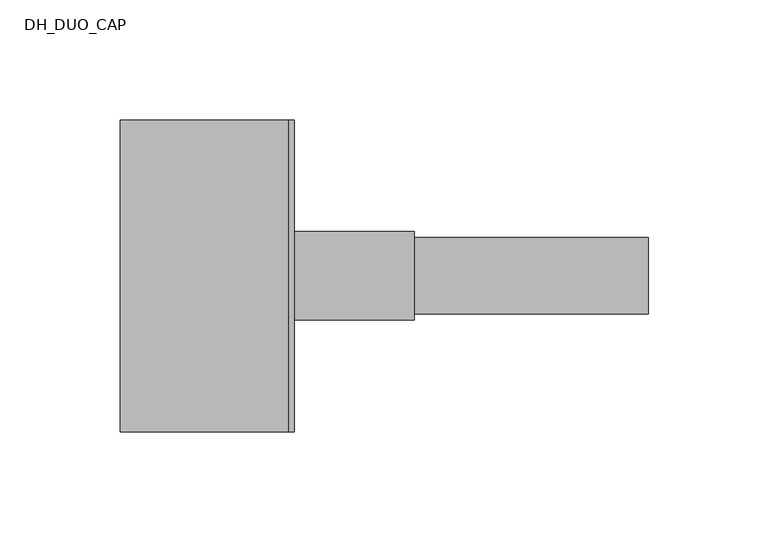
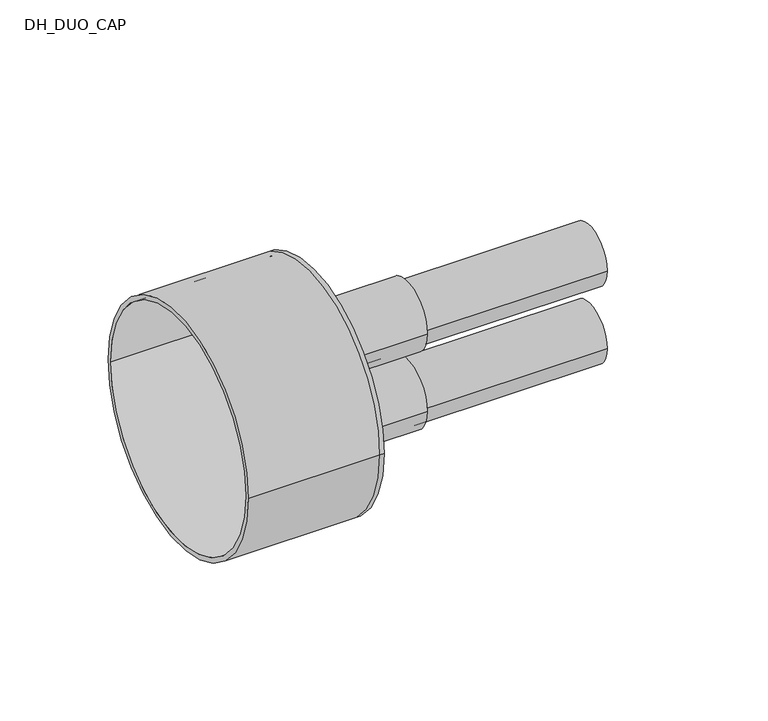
"""IFC4 building model written with IfcOpenShell, lengths in millimetres: pipe fitting geometry, DH_DUO_CAP : INSULPEX DUO + 11 Heating - Rubber Cap."""

import ifcopenshell
import ifcopenshell.guid

model = None  # the IFC model being written
_history = None  # IfcOwnerHistory: only IFC2X3 demands one
_inside = {}  # id of a spatial element -> (the spatial element, [elements in it])
_under = {}  # id of a project, library or spatial element -> (it, [spatial elements below it])
_declared = {}  # id of a project -> (the project, [libraries it declares])
_typed = {}  # id of a type object -> (the type object, [elements of that type])
_made_of = {}  # id of a material, layer set ... -> (it, [elements and type objects made of it])


def new_model(schema):
    """Start an empty IFC model of exactly this schema.

    Asked for "IFC4X3", IfcOpenShell would pick the latest addendum, in which some entities
    have other attributes; the version numbers below select the first issue.
    IFC2X3 requires an IfcOwnerHistory on every rooted entity: one is made here for all.
    """
    global model, _history
    if schema == "IFC4X3":
        model = ifcopenshell.file(schema_version=(4, 3, 0, 0))
    else:
        model = ifcopenshell.file(schema=schema)
    _inside.clear()
    _under.clear()
    _declared.clear()
    _typed.clear()
    _made_of.clear()
    _history = None
    if model.schema == "IFC2X3":
        org = make("IfcOrganization", Name="unknown")
        user = make(
            "IfcPersonAndOrganization",
            ThePerson=make("IfcPerson", FamilyName="unknown"),
            TheOrganization=org,
        )
        app = make(
            "IfcApplication",
            ApplicationDeveloper=org,
            Version="unknown",
            ApplicationFullName="unknown",
            ApplicationIdentifier="unknown",
        )
        _history = make(
            "IfcOwnerHistory",
            OwningUser=user,
            OwningApplication=app,
            ChangeAction="ADDED",
            CreationDate=0,
        )
    return model


def make(cls, **values):
    """One entity of the class cls with the attributes given. An attribute that is None is left unset."""
    return model.create_entity(
        cls, **{name: value for name, value in values.items() if value is not None}
    )


def rooted(cls, **values):
    """An entity with a GlobalId (a new one), such as an element, a storey or a relation."""
    return make(cls, GlobalId=ifcopenshell.guid.new(), OwnerHistory=_history, **values)


def si_unit(unit_type, name, prefix=None):
    """IfcSIUnit, for example si_unit("LENGTHUNIT", "METRE", prefix="MILLI")."""
    return make("IfcSIUnit", UnitType=unit_type, Prefix=prefix, Name=name)


def assignment(units):
    """IfcUnitAssignment: the units of a project."""
    return None if units is None else make("IfcUnitAssignment", Units=units)


def point(xyz):
    """IfcCartesianPoint."""
    return None if xyz is None else make("IfcCartesianPoint", Coordinates=xyz)


def direction(xyz):
    """IfcDirection."""
    return None if xyz is None else make("IfcDirection", DirectionRatios=xyz)


def frame(location, z_axis=None, x_axis=None):
    """IfcAxis2Placement3D, a coordinate frame: its origin and axes. An axis left out is left unset."""
    return make(
        "IfcAxis2Placement3D",
        Location=point(location),
        Axis=direction(z_axis),
        RefDirection=direction(x_axis),
    )


def frame_2d(location, x_axis=None):
    """IfcAxis2Placement2D, a coordinate frame in the plane: its origin and x axis."""
    return make(
        "IfcAxis2Placement2D", Location=point(location), RefDirection=direction(x_axis)
    )


def origin():
    """The frame at (0, 0, 0) with its axes left unset."""
    return frame((0.0, 0.0, 0.0))


def place(relative_to, where):
    """IfcLocalPlacement: puts the frame where relative to a parent placement (None: the world)."""
    return make(
        "IfcLocalPlacement", PlacementRelTo=relative_to, RelativePlacement=where
    )


def context(
    kind, dimensions, precision=None, world=None, true_north=None, identifier=None
):
    """IfcGeometricRepresentationContext, for example the 3D "Model" context."""
    return make(
        "IfcGeometricRepresentationContext",
        ContextIdentifier=identifier,
        ContextType=kind,
        CoordinateSpaceDimension=dimensions,
        Precision=precision,
        WorldCoordinateSystem=world,
        TrueNorth=true_north,
    )


def project(units=None, contexts=None):
    """IfcProject with its units and contexts."""
    return rooted(
        "IfcProject",
        Name="project",
        RepresentationContexts=contexts,
        UnitsInContext=assignment(units),
    )


def spatial(cls, under=None, at=None, **own):
    """A site, building, storey or space (cls), placed at a placement, below another one or the project."""
    s = rooted(cls, ObjectPlacement=at, **own)
    if under is not None:
        _under.setdefault(under.id(), (under, []))[1].append(s)
    return s


def polyline(points):
    """IfcPolyline through the points."""
    return make("IfcPolyline", Points=[point(p) for p in points])


def circle_curve(where, radius):
    """IfcCircle in the frame where."""
    return make("IfcCircle", Position=where, Radius=radius)


def trimmed(basis, trim1, trim2, sense, master):
    """IfcTrimmedCurve: the piece of a basis curve between two trims."""
    return make(
        "IfcTrimmedCurve",
        BasisCurve=basis,
        Trim1=trim1,
        Trim2=trim2,
        SenseAgreement=sense,
        MasterRepresentation=master,
    )


def segment(curve, same_sense, transition):
    """IfcCompositeCurveSegment."""
    return make(
        "IfcCompositeCurveSegment",
        Transition=transition,
        SameSense=same_sense,
        ParentCurve=curve,
    )


def composite_curve(segments, self_intersect=None):
    """IfcCompositeCurve: segments joined end to end."""
    return make("IfcCompositeCurve", Segments=segments, SelfIntersect=self_intersect)


def outline(outer, holes=None, kind="AREA"):
    """IfcArbitraryClosedProfileDef: a profile drawn as a closed curve; with holes, ...WithVoids."""
    if holes is None:
        return make("IfcArbitraryClosedProfileDef", ProfileType=kind, OuterCurve=outer)
    return make(
        "IfcArbitraryProfileDefWithVoids",
        ProfileType=kind,
        OuterCurve=outer,
        InnerCurves=holes,
    )


def extrude(swept, where, along, depth):
    """IfcExtrudedAreaSolid: the profile swept, set in the frame where, extruded along a direction by depth."""
    return make(
        "IfcExtrudedAreaSolid",
        SweptArea=swept,
        Position=where,
        ExtrudedDirection=direction(along),
        Depth=depth,
    )


def shape(context_of_items, identifier, shape_type, items):
    """IfcShapeRepresentation: the items that make up one representation, for example the "Body"."""
    return make(
        "IfcShapeRepresentation",
        ContextOfItems=context_of_items,
        RepresentationIdentifier=identifier,
        RepresentationType=shape_type,
        Items=items,
    )


def source(mapping_origin, context_of_items, identifier, shape_type, items):
    """IfcRepresentationMap: a shape defined once, which mapped items show again and again."""
    return make(
        "IfcRepresentationMap",
        MappingOrigin=mapping_origin,
        MappedRepresentation=shape(context_of_items, identifier, shape_type, items),
    )


def transform(
    local_origin,
    x_axis=None,
    y_axis=None,
    z_axis=None,
    scale=None,
    scale2=None,
    scale3=None,
    uniform=True,
):
    """IfcCartesianTransformationOperator3D, or its non-uniform kind. x_axis, y_axis, z_axis: its Axis1, 2, 3."""
    if uniform:
        return make(
            "IfcCartesianTransformationOperator3D",
            Axis1=direction(x_axis),
            Axis2=direction(y_axis),
            LocalOrigin=point(local_origin),
            Scale=scale,
            Axis3=direction(z_axis),
        )
    return make(
        "IfcCartesianTransformationOperator3DnonUniform",
        Axis1=direction(x_axis),
        Axis2=direction(y_axis),
        LocalOrigin=point(local_origin),
        Scale=scale,
        Axis3=direction(z_axis),
        Scale2=scale2,
        Scale3=scale3,
    )


def mapped(mapping_source, mapping_target):
    """IfcMappedItem: shows the shape of a source again, moved by a transform."""
    return make(
        "IfcMappedItem", MappingSource=mapping_source, MappingTarget=mapping_target
    )


def made_of(thing, what):
    """Note that an element or type object is made of a material, layer set ...; save() writes the relation."""
    if what is not None:
        _made_of.setdefault(what.id(), (what, []))[1].append(thing)
    return thing


def element(
    cls,
    number,
    at=None,
    inside=None,
    cuts=None,
    type_object=None,
    material=None,
    context=None,
    identifier="Body",
    shape_type=None,
    held_by="IfcProductDefinitionShape",
    body=None,
    shapes=None,
    **own,
):
    """One element of the class cls, such as IfcWall. Its Tag is "e" and its number.

    at: its placement. inside: the storey or other place that contains it. cuts: it is an
    opening in that element (IfcRelVoidsElement). A single representation is given by context,
    identifier, shape_type and body (its items); several are given by shapes. held_by: the class
    of the entity that holds the representations. save() writes the other relations.
    """
    e = rooted(cls, Tag="e%d" % number, ObjectPlacement=at, **own)
    if body is not None:
        shapes = [shape(context, identifier, shape_type, body)]
    if shapes is not None:
        e.Representation = make(held_by, Representations=shapes)
    if inside is not None:
        _inside.setdefault(inside.id(), (inside, []))[1].append(e)
    if cuts is not None:
        rooted(
            "IfcRelVoidsElement", RelatingBuildingElement=cuts, RelatedOpeningElement=e
        )
    if type_object is not None:
        _typed.setdefault(type_object.id(), (type_object, []))[1].append(e)
    return made_of(e, material)


def aggregate(whole, parts):
    """IfcRelAggregates: a whole, such as a stair, and the parts it consists of."""
    return rooted("IfcRelAggregates", RelatingObject=whole, RelatedObjects=parts)


def save(model, path):
    """Write the relations noted so far, then the file.

    IfcRelAggregates (storeys below a building ...), IfcRelContainedInSpatialStructure (elements
    in a storey), IfcRelDefinesByType, IfcRelAssociatesMaterial and IfcRelDeclares: one each for
    every whole, place, type object, material and project.
    """
    for whole, parts in _under.values():
        aggregate(whole, parts)
    for where, things in _inside.values():
        rooted(
            "IfcRelContainedInSpatialStructure",
            RelatedElements=things,
            RelatingStructure=where,
        )
    for kind, things in _typed.values():
        rooted("IfcRelDefinesByType", RelatedObjects=things, RelatingType=kind)
    for what, things in _made_of.values():
        rooted("IfcRelAssociatesMaterial", RelatedObjects=things, RelatingMaterial=what)
    for by, libraries in _declared.values():
        rooted("IfcRelDeclares", RelatingContext=by, RelatedDefinitions=libraries)
    model.write(path)


def plane_surface(at):
    """IfcPlane: the flat surface through the origin of the frame at, square to its z axis."""
    return make("IfcPlane", Position=at)


def cylinder_surface(at, radius):
    """IfcCylindricalSurface: all points at the distance radius from the z axis of the frame at."""
    return make("IfcCylindricalSurface", Position=at, Radius=radius)


def revolved_surface(curve, axis_point, axis_direction):
    """IfcSurfaceOfRevolution: the curve turned about the line through axis_point along axis_direction."""
    return make(
        "IfcSurfaceOfRevolution",
        SweptCurve=make("IfcArbitraryOpenProfileDef", ProfileType="CURVE", Curve=curve),
        AxisPosition=make("IfcAxis1Placement", Location=point(axis_point), Axis=direction(axis_direction)),
    )


def advanced_brep(points, edges, surfaces, faces):
    """IfcAdvancedBrep: a solid bounded by faces that lie on surfaces and meet in shared edges.

    An edge is (start, end): straight between two places in points (the first is 0);
    or (start, end, curve); or (start, end, curve, False) where it runs against its curve.
    A face is (place in surfaces, loops), or (place, loops, False) where it looks against
    its surface's normal. A loop lists edges by number (the first is 1), with a minus sign
    where the edge is run from its end to its start. The first loop is the outer one.
    """
    corners = [point(p) for p in points]
    vertices = [make("IfcVertexPoint", VertexGeometry=c) for c in corners]
    made = []
    for start, end, *more in edges:
        made.append(
            make(
                "IfcEdgeCurve",
                EdgeStart=vertices[start],
                EdgeEnd=vertices[end],
                EdgeGeometry=more[0] if more else make("IfcPolyline", Points=[corners[start], corners[end]]),
                SameSense=more[1] if len(more) > 1 else True,
            )
        )
    hull = []
    for where, loops, *sense in faces:
        bounds = []
        for j, loop in enumerate(loops):
            ring = [make("IfcOrientedEdge", EdgeElement=made[abs(k) - 1], Orientation=k > 0) for k in loop]
            bounds.append(
                make(
                    "IfcFaceOuterBound" if j == 0 else "IfcFaceBound",
                    Bound=make("IfcEdgeLoop", EdgeList=ring),
                    Orientation=True,
                )
            )
        hull.append(make("IfcAdvancedFace", Bounds=bounds, FaceSurface=surfaces[where], SameSense=sense[0] if sense else True))
    return make("IfcAdvancedBrep", Outer=make("IfcClosedShell", CfsFaces=hull))


def dh_duo_cap_c0886c2c(model_context):
    return source(origin(), model_context, "Body", "SolidModel", [
        extrude(outline(composite_curve([segment(trimmed(circle_curve(frame_2d((0.0, -22.0)), 16.0), [point((-16.0, -22.0))], [point((16.0, -22.0))], False, "CARTESIAN"), True, "CONTINUOUS"), segment(trimmed(circle_curve(frame_2d((0.0, -22.0)), 16.0), [point((16.0, -22.0))], [point((-16.0, -22.0))], False, "CARTESIAN"), True, "CONTINUOUS")], self_intersect=False), holes=[composite_curve([segment(trimmed(circle_curve(frame_2d((0.0, -22.0)), 13.1), [point((-13.1, -22.0))], [point((13.1, -22.0))], True, "CARTESIAN"), True, "CONTINUOUS"), segment(trimmed(circle_curve(frame_2d((0.0, -22.0)), 13.1), [point((13.1, -22.0))], [point((-13.1, -22.0))], True, "CARTESIAN"), True, "CONTINUOUS")], self_intersect=False)]), frame((0.0, 0.0, 0.0), z_axis=(1.0, 0.0, 0.0), x_axis=(0.0, 1.0, 0.0)), (0.0, 0.0, 1.0), 150.0),
        extrude(outline(composite_curve([segment(trimmed(circle_curve(frame_2d((0.0, 22.0)), 16.0), [point((-16.0, 22.0))], [point((16.0, 22.0))], False, "CARTESIAN"), True, "CONTINUOUS"), segment(trimmed(circle_curve(frame_2d((0.0, 22.0)), 16.0), [point((16.0, 22.0))], [point((-16.0, 22.0))], False, "CARTESIAN"), True, "CONTINUOUS")], self_intersect=False), holes=[composite_curve([segment(trimmed(circle_curve(frame_2d((0.0, 22.0)), 13.1), [point((-13.1, 22.0))], [point((13.1, 22.0))], True, "CARTESIAN"), True, "CONTINUOUS"), segment(trimmed(circle_curve(frame_2d((0.0, 22.0)), 13.1), [point((13.1, 22.0))], [point((-13.1, 22.0))], True, "CARTESIAN"), True, "CONTINUOUS")], self_intersect=False)]), frame((0.0, 0.0, 0.0), z_axis=(1.0, 0.0, 0.0), x_axis=(0.0, 1.0, 0.0)), (0.0, 0.0, 1.0), 150.0),
        advanced_brep(
        [(-70.0, -65.0, 0.0), (-70.0, 65.0, 0.0), (-70.0, -62.5, 0.0), (-70.0, 62.5, 0.0), (0.0, -62.5, 0.0), (0.0, 62.5, 0.0), (0.0, -65.0, 0.0), (0.0, 65.0, 0.0), (0.0, 16.0, 22.0), (0.0, -16.0, 22.0), (0.0, 16.0, -22.0), (0.0, -16.0, -22.0), (2.5, -65.0, 0.0), (2.5, 65.0, 0.0), (2.5, -16.0, 22.0), (2.5, 16.0, 22.0), (2.5, -16.0, -22.0), (2.5, 16.0, -22.0)],
        [
            (0, 1, circle_curve(frame((-70.0, 0.0, 0.0), z_axis=(-1.0, 0.0, 0.0), x_axis=(0.0, 1.0, 0.0)), 65.0)),
            (1, 0, circle_curve(frame((-70.0, 0.0, 0.0), z_axis=(-1.0, 0.0, 0.0), x_axis=(0.0, 1.0, 0.0)), 65.0)),
            (2, 3, circle_curve(frame((-70.0, 0.0, 0.0), z_axis=(1.0, 0.0, 0.0), x_axis=(0.0, 1.0, 0.0)), 62.5)),
            (3, 2, circle_curve(frame((-70.0, 0.0, 0.0), z_axis=(1.0, 0.0, 0.0), x_axis=(0.0, 1.0, 0.0)), 62.5)),
            (2, 4),
            (4, 5, circle_curve(frame((0.0, 0.0, 0.0), z_axis=(1.0, 0.0, 0.0), x_axis=(0.0, 1.0, 0.0)), 62.5)),
            (5, 3),
            (5, 4, circle_curve(frame((0.0, 0.0, 0.0), z_axis=(1.0, 0.0, 0.0), x_axis=(0.0, 1.0, 0.0)), 62.5)),
            (0, 6),
            (6, 7, circle_curve(frame((0.0, 0.0, 0.0), z_axis=(-1.0, 0.0, 0.0), x_axis=(0.0, 1.0, 0.0)), 65.0)),
            (7, 1),
            (7, 6, circle_curve(frame((0.0, 0.0, 0.0), z_axis=(-1.0, 0.0, 0.0), x_axis=(0.0, 1.0, 0.0)), 65.0)),
            (8, 9, circle_curve(frame((0.0, 0.0, 22.0), z_axis=(1.0, 0.0, 0.0), x_axis=(0.0, 1.0, 0.0)), 16.0)),
            (9, 8, circle_curve(frame((0.0, 0.0, 22.0), z_axis=(1.0, 0.0, 0.0), x_axis=(0.0, 1.0, 0.0)), 16.0)),
            (10, 11, circle_curve(frame((0.0, 0.0, -22.0), z_axis=(1.0, 0.0, 0.0), x_axis=(0.0, 1.0, 0.0)), 16.0)),
            (11, 10, circle_curve(frame((0.0, 0.0, -22.0), z_axis=(1.0, 0.0, 0.0), x_axis=(0.0, 1.0, 0.0)), 16.0)),
            (12, 13, circle_curve(frame((2.5, 0.0, 0.0), z_axis=(1.0, 0.0, 0.0), x_axis=(0.0, 1.0, 0.0)), 65.0)),
            (13, 12, circle_curve(frame((2.5, 0.0, 0.0), z_axis=(1.0, 0.0, 0.0), x_axis=(0.0, 1.0, 0.0)), 65.0)),
            (14, 15, circle_curve(frame((2.5, 0.0, 22.0), z_axis=(-1.0, 0.0, 0.0), x_axis=(0.0, 1.0, 0.0)), 16.0)),
            (15, 14, circle_curve(frame((2.5, 0.0, 22.0), z_axis=(-1.0, 0.0, 0.0), x_axis=(0.0, 1.0, 0.0)), 16.0)),
            (16, 17, circle_curve(frame((2.5, 0.0, -22.0), z_axis=(-1.0, 0.0, 0.0), x_axis=(0.0, 1.0, 0.0)), 16.0)),
            (17, 16, circle_curve(frame((2.5, 0.0, -22.0), z_axis=(-1.0, 0.0, 0.0), x_axis=(0.0, 1.0, 0.0)), 16.0)),
            (13, 7),
            (6, 12),
            (8, 15),
            (14, 9),
            (10, 17),
            (16, 11),
        ],
        [
            plane_surface(frame((-70.0, 0.0, 0.0), z_axis=(-1.0, 0.0, 0.0), x_axis=(0.0, 0.0, 1.0))),
            revolved_surface(polyline([(0.0, 62.5, 0.0), (-70.0, 62.5, 0.0)]), (-70.0, 0.0, 0.0), (1.0, 0.0, 0.0)),
            cylinder_surface(frame((-70.0, 0.0, 0.0), z_axis=(-1.0, 0.0, 0.0), x_axis=(0.0, 1.0, 0.0)), 65.0),
            plane_surface(frame((0.0, 0.0, 0.0), z_axis=(-1.0, 0.0, 0.0), x_axis=(0.0, 0.0, 1.0))),
            plane_surface(frame((2.5, 0.0, 0.0), z_axis=(1.0, 0.0, 0.0), x_axis=(0.0, 0.0, 1.0))),
            cylinder_surface(frame((0.0, 0.0, 0.0), z_axis=(-1.0, 0.0, 0.0), x_axis=(0.0, 1.0, 0.0)), 65.0),
            revolved_surface(polyline([(0.0, 16.0, 22.0), (2.5, 16.0, 22.0)]), (0.0, 0.0, 22.0), (-1.0, 0.0, 0.0)),
            revolved_surface(polyline([(0.0, 16.0, -22.0), (2.5, 16.0, -22.0)]), (0.0, 0.0, -22.0), (-1.0, 0.0, 0.0)),
        ],
        [
            (0, [[1, 2], [3, 4]]),
            (1, [[-3, 5, 6, 7]]),
            (1, [[-4, -7, 8, -5]]),
            (2, [[-1, 9, 10, 11]]),
            (2, [[-2, -11, 12, -9]]),
            (3, [[-6, -8], [13, 14], [15, 16]]),
            (4, [[17, 18], [19, 20], [21, 22]]),
            (5, [[-18, 23, -10, 24]]),
            (5, [[-17, -24, -12, -23]]),
            (6, [[25, -19, 26, -13]]),
            (6, [[-25, -14, -26, -20]]),
            (7, [[27, -21, 28, -15]]),
            (7, [[-27, -16, -28, -22]]),
        ],
    ),
        extrude(outline(composite_curve([segment(trimmed(circle_curve(frame_2d((0.0, -22.0)), 18.5), [point((-18.5, -22.0))], [point((18.5, -22.0))], False, "CARTESIAN"), True, "CONTINUOUS"), segment(trimmed(circle_curve(frame_2d((0.0, -22.0)), 18.5), [point((18.5, -22.0))], [point((-18.5, -22.0))], False, "CARTESIAN"), True, "CONTINUOUS")], self_intersect=False), holes=[composite_curve([segment(trimmed(circle_curve(frame_2d((0.0, -22.0)), 16.0), [point((-16.0, -22.0))], [point((16.0, -22.0))], True, "CARTESIAN"), True, "CONTINUOUS"), segment(trimmed(circle_curve(frame_2d((0.0, -22.0)), 16.0), [point((16.0, -22.0))], [point((-16.0, -22.0))], True, "CARTESIAN"), True, "CONTINUOUS")], self_intersect=False)]), frame((2.5, 0.0, 0.0), z_axis=(1.0, 0.0, 0.0), x_axis=(0.0, 1.0, 0.0)), (0.0, 0.0, 1.0), 50.0),
        extrude(outline(composite_curve([segment(trimmed(circle_curve(frame_2d((0.0, 22.0)), 18.5), [point((-18.5, 22.0))], [point((18.5, 22.0))], False, "CARTESIAN"), True, "CONTINUOUS"), segment(trimmed(circle_curve(frame_2d((0.0, 22.0)), 18.5), [point((18.5, 22.0))], [point((-18.5, 22.0))], False, "CARTESIAN"), True, "CONTINUOUS")], self_intersect=False), holes=[composite_curve([segment(trimmed(circle_curve(frame_2d((0.0, 22.0)), 16.0), [point((-16.0, 22.0))], [point((16.0, 22.0))], True, "CARTESIAN"), True, "CONTINUOUS"), segment(trimmed(circle_curve(frame_2d((0.0, 22.0)), 16.0), [point((16.0, 22.0))], [point((-16.0, 22.0))], True, "CARTESIAN"), True, "CONTINUOUS")], self_intersect=False)]), frame((2.5, 0.0, 0.0), z_axis=(1.0, 0.0, 0.0), x_axis=(0.0, 1.0, 0.0)), (0.0, 0.0, 1.0), 50.0),
    ])


if __name__ == "__main__":
    model = new_model("IFC4")
    model_context = context("Model", 3, world=origin())
    ifc_project = project(units=[si_unit("LENGTHUNIT", "METRE", prefix="MILLI")], contexts=[model_context])
    site = spatial("IfcSite", under=ifc_project)
    building = spatial("IfcBuilding", under=site)
    placement = place(None, origin())
    dh_duo_cap_shape = dh_duo_cap_c0886c2c(model_context)
    element("IfcPipeFitting", 1, ObjectType="DH_DUO_CAP : INSULPEX DUO + 11 Heating - Rubber Cap", at=placement, inside=building, context=model_context, shape_type="MappedRepresentation", body=[
        mapped(dh_duo_cap_shape, transform((0.0, 0.0, 0.0), x_axis=(1.0, 0.0, 0.0), y_axis=(0.0, 1.0, 0.0), z_axis=(0.0, 0.0, 1.0))),
    ])
    save(model, "model.ifc")
